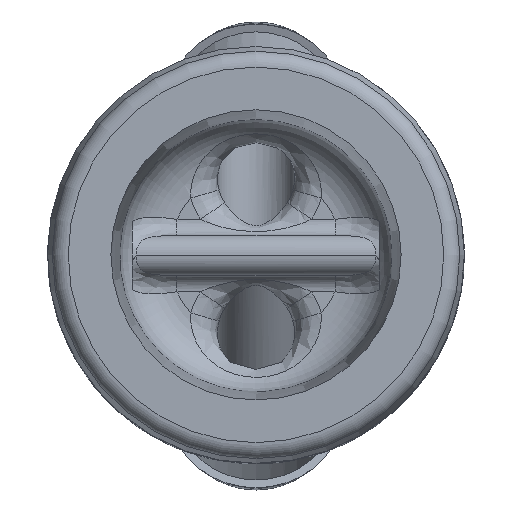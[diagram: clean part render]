
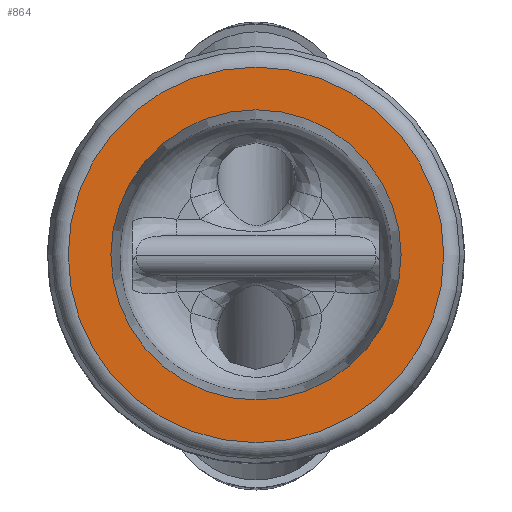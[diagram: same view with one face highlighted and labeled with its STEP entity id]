
A CAD part, top view. The second image highlights one B-rep face of the part: STEP entity #864.
In plain terms, the highlighted planar face has unit normal (0, 0, 1).
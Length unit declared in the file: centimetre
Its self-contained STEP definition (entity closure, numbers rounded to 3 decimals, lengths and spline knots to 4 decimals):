
#153=PLANE('',#1131);
#285=VERTEX_POINT('',#3868);
#291=VERTEX_POINT('',#3887);
#327=CIRCLE('',#1115,1.1176);
#333=CIRCLE('',#1128,1.4466);
#435=EDGE_CURVE('',#285,#285,#327,.T.);
#441=EDGE_CURVE('',#291,#291,#333,.T.);
#651=ORIENTED_EDGE('',*,*,#435,.T.);
#652=ORIENTED_EDGE('',*,*,#441,.F.);
#727=EDGE_LOOP('',(#651));
#728=EDGE_LOOP('',(#652));
#803=FACE_BOUND('',#727,.T.);
#804=FACE_BOUND('',#728,.T.);
#864=ADVANCED_FACE('',(#803,#804),#153,.T.);
#1005=DIRECTION('',(0.,0.,-1.));
#1006=DIRECTION('',(0.,1.118,0.));
#1026=DIRECTION('',(0.,0.,-1.));
#1027=DIRECTION('',(0.,-1.447,0.));
#1032=DIRECTION('',(0.,0.,1.));
#1115=AXIS2_PLACEMENT_3D('',#3867,#1005,#1006);
#1128=AXIS2_PLACEMENT_3D('',#3886,#1026,#1027);
#1131=AXIS2_PLACEMENT_3D('',#3891,#1032,$);
#3867=CARTESIAN_POINT('',(0.,0.,0.));
#3868=CARTESIAN_POINT('',(0.,1.1176,0.));
#3886=CARTESIAN_POINT('',(0.,0.,0.));
#3887=CARTESIAN_POINT('',(0.,1.4466,0.));
#3891=CARTESIAN_POINT('',(0.,0.772,0.));
